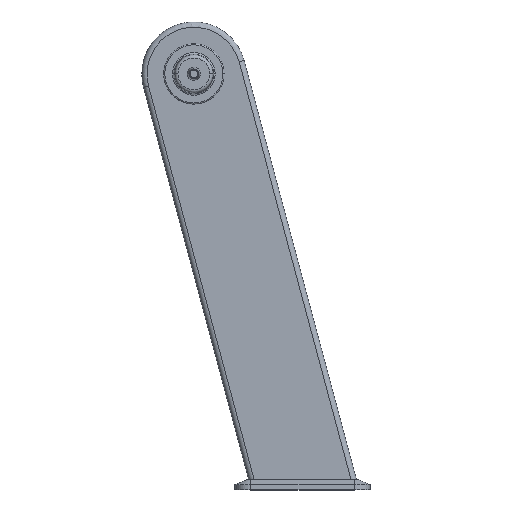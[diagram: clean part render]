
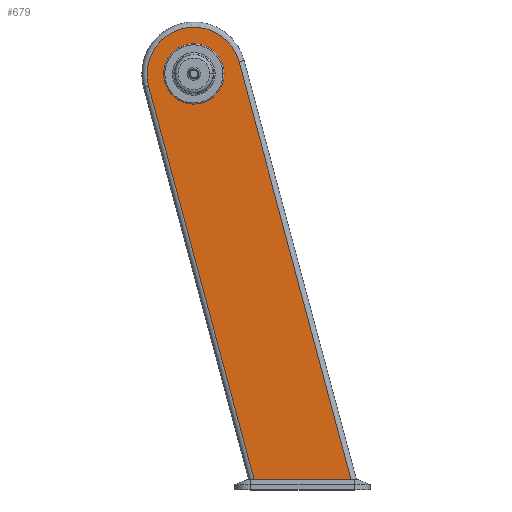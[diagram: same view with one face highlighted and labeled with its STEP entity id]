
A CAD part, top view. The second image highlights one B-rep face of the part: STEP entity #679.
In plain terms, the highlighted planar face has unit normal (0, 0, 1).
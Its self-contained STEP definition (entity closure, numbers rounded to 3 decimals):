
#48 = ORIENTED_EDGE ( 'NONE', *, *, #701, .T. ) ;
#111 = VERTEX_POINT ( 'NONE', #2394 ) ;
#117 = VERTEX_POINT ( 'NONE', #303 ) ;
#175 = DIRECTION ( 'NONE',  ( 1., 0., 0. ) ) ;
#242 = ORIENTED_EDGE ( 'NONE', *, *, #616, .T. ) ;
#299 = FACE_BOUND ( 'NONE', #1210, .T. ) ;
#303 = CARTESIAN_POINT ( 'NONE',  ( -86.933, -23.294, 31.25 ) ) ;
#372 = DIRECTION ( 'NONE',  ( 1., 0., 0. ) ) ;
#397 = DIRECTION ( 'NONE',  ( 1., 0., 0. ) ) ;
#420 = CARTESIAN_POINT ( 'NONE',  ( 86.933, 23.294, 31.25 ) ) ;
#423 = AXIS2_PLACEMENT_3D ( 'NONE', #2476, #1371, #175 ) ;
#502 = VECTOR ( 'NONE', #372, 1000. ) ;
#616 = EDGE_CURVE ( 'NONE', #1085, #111, #1022, .T. ) ;
#617 = DIRECTION ( 'NONE',  ( 0.259, -0.966, 0. ) ) ;
#623 = DIRECTION ( 'NONE',  ( 0., 0., 1. ) ) ;
#659 = CIRCLE ( 'NONE', #1870, 58. ) ;
#667 = EDGE_CURVE ( 'NONE', #1990, #2242, #1832, .T. ) ;
#679 = ADVANCED_FACE ( 'NONE', ( #1351, #299 ), #994, .T. ) ;
#701 = EDGE_CURVE ( 'NONE', #1241, #117, #1889, .T. ) ;
#831 = AXIS2_PLACEMENT_3D ( 'NONE', #1906, #1551, #397 ) ;
#961 = AXIS2_PLACEMENT_3D ( 'NONE', #1748, #623, #1925 ) ;
#991 = ORIENTED_EDGE ( 'NONE', *, *, #1871, .T. ) ;
#994 = PLANE ( 'NONE',  #831 ) ;
#1017 = DIRECTION ( 'NONE',  ( -0.259, 0.966, 0. ) ) ;
#1021 = ORIENTED_EDGE ( 'NONE', *, *, #1944, .F. ) ;
#1022 = LINE ( 'NONE', #1159, #502 ) ;
#1043 = DIRECTION ( 'NONE',  ( 0., 0., 1. ) ) ;
#1085 = VERTEX_POINT ( 'NONE', #1872 ) ;
#1159 = CARTESIAN_POINT ( 'NONE',  ( 0., -780., 31.25 ) ) ;
#1210 = EDGE_LOOP ( 'NONE', ( #1817, #1021 ) ) ;
#1237 = CARTESIAN_POINT ( 'NONE',  ( -58., 0., 31.25 ) ) ;
#1241 = VERTEX_POINT ( 'NONE', #1553 ) ;
#1349 = LINE ( 'NONE', #420, #2259 ) ;
#1351 = FACE_OUTER_BOUND ( 'NONE', #2248, .T. ) ;
#1371 = DIRECTION ( 'NONE',  ( 0., 0., 1. ) ) ;
#1433 = CARTESIAN_POINT ( 'NONE',  ( 58., 0., 31.25 ) ) ;
#1454 = VECTOR ( 'NONE', #617, 1000. ) ;
#1551 = DIRECTION ( 'NONE',  ( 0., 0., 1. ) ) ;
#1553 = CARTESIAN_POINT ( 'NONE',  ( 86.933, 23.294, 31.25 ) ) ;
#1741 = CARTESIAN_POINT ( 'NONE',  ( 120.491, -797.412, 31.25 ) ) ;
#1748 = CARTESIAN_POINT ( 'NONE',  ( 0., 0., 31.25 ) ) ;
#1791 = EDGE_CURVE ( 'NONE', #117, #1085, #1938, .T. ) ;
#1817 = ORIENTED_EDGE ( 'NONE', *, *, #667, .F. ) ;
#1832 = CIRCLE ( 'NONE', #423, 58. ) ;
#1870 = AXIS2_PLACEMENT_3D ( 'NONE', #2139, #1043, #2332 ) ;
#1871 = EDGE_CURVE ( 'NONE', #111, #1241, #1349, .T. ) ;
#1872 = CARTESIAN_POINT ( 'NONE',  ( 115.826, -780., 31.25 ) ) ;
#1889 = CIRCLE ( 'NONE', #961, 90. ) ;
#1906 = CARTESIAN_POINT ( 'NONE',  ( 0., 0., 31.25 ) ) ;
#1925 = DIRECTION ( 'NONE',  ( 1., 0., 0. ) ) ;
#1938 = LINE ( 'NONE', #1741, #1454 ) ;
#1944 = EDGE_CURVE ( 'NONE', #2242, #1990, #659, .T. ) ;
#1961 = ORIENTED_EDGE ( 'NONE', *, *, #1791, .T. ) ;
#1990 = VERTEX_POINT ( 'NONE', #1433 ) ;
#2139 = CARTESIAN_POINT ( 'NONE',  ( 0., 0., 31.25 ) ) ;
#2242 = VERTEX_POINT ( 'NONE', #1237 ) ;
#2248 = EDGE_LOOP ( 'NONE', ( #1961, #242, #991, #48 ) ) ;
#2259 = VECTOR ( 'NONE', #1017, 1000. ) ;
#2332 = DIRECTION ( 'NONE',  ( 1., 0., 0. ) ) ;
#2394 = CARTESIAN_POINT ( 'NONE',  ( 302.175, -780., 31.25 ) ) ;
#2476 = CARTESIAN_POINT ( 'NONE',  ( 0., 0., 31.25 ) ) ;
